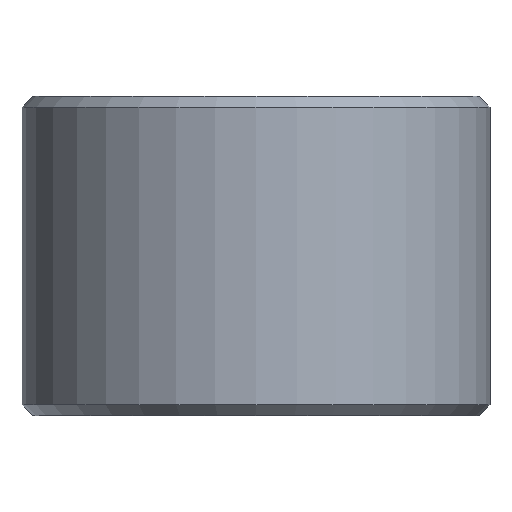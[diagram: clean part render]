
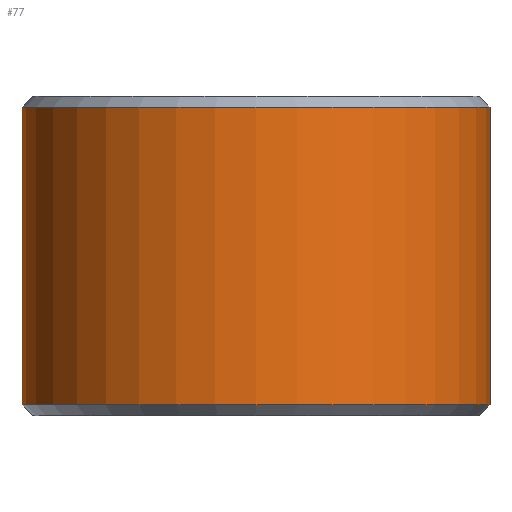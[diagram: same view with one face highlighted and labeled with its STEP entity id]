
A CAD part, front view. The second image highlights one B-rep face of the part: STEP entity #77.
In plain terms, the highlighted cylindrical face has radius 11 mm (diameter 22 mm), a partial arc.
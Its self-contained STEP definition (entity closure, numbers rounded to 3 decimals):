
#3 = CIRCLE ( 'NONE', #161, 11. ) ;
#8 = CARTESIAN_POINT ( 'NONE',  ( -11., 0., 7.5 ) ) ;
#39 = DIRECTION ( 'NONE',  ( 0., 0., 1. ) ) ;
#59 = CARTESIAN_POINT ( 'NONE',  ( 0., 0., 7.5 ) ) ;
#70 = CARTESIAN_POINT ( 'NONE',  ( 11., 0., 7.5 ) ) ;
#77 = ADVANCED_FACE ( 'NONE', ( #440 ), #118, .T. ) ;
#87 = CARTESIAN_POINT ( 'NONE',  ( 11., 0., 7. ) ) ;
#97 = LINE ( 'NONE', #8, #249 ) ;
#118 = CYLINDRICAL_SURFACE ( 'NONE', #143, 11. ) ;
#133 = CARTESIAN_POINT ( 'NONE',  ( -11., 0., -7. ) ) ;
#142 = CARTESIAN_POINT ( 'NONE',  ( -11., 0., 7. ) ) ;
#143 = AXIS2_PLACEMENT_3D ( 'NONE', #59, #264, #328 ) ;
#144 = CIRCLE ( 'NONE', #403, 11. ) ;
#155 = VERTEX_POINT ( 'NONE', #87 ) ;
#159 = DIRECTION ( 'NONE',  ( 1., 0., 0. ) ) ;
#161 = AXIS2_PLACEMENT_3D ( 'NONE', #235, #39, #159 ) ;
#194 = EDGE_CURVE ( 'NONE', #392, #206, #3, .T. ) ;
#195 = DIRECTION ( 'NONE',  ( 0., 0., -1. ) ) ;
#197 = VECTOR ( 'NONE', #322, 1000. ) ;
#206 = VERTEX_POINT ( 'NONE', #269 ) ;
#212 = ORIENTED_EDGE ( 'NONE', *, *, #333, .F. ) ;
#233 = EDGE_CURVE ( 'NONE', #442, #392, #97, .T. ) ;
#235 = CARTESIAN_POINT ( 'NONE',  ( 0., 0., -7. ) ) ;
#249 = VECTOR ( 'NONE', #346, 1000. ) ;
#264 = DIRECTION ( 'NONE',  ( 0., 0., -1. ) ) ;
#269 = CARTESIAN_POINT ( 'NONE',  ( 11., 0., -7. ) ) ;
#298 = ORIENTED_EDGE ( 'NONE', *, *, #305, .T. ) ;
#305 = EDGE_CURVE ( 'NONE', #155, #442, #144, .T. ) ;
#322 = DIRECTION ( 'NONE',  ( 0., 0., -1. ) ) ;
#328 = DIRECTION ( 'NONE',  ( -1., 0., 0. ) ) ;
#333 = EDGE_CURVE ( 'NONE', #155, #206, #382, .T. ) ;
#338 = DIRECTION ( 'NONE',  ( 1., 0., 0. ) ) ;
#346 = DIRECTION ( 'NONE',  ( 0., 0., -1. ) ) ;
#353 = EDGE_LOOP ( 'NONE', ( #212, #298, #383, #436 ) ) ;
#382 = LINE ( 'NONE', #70, #197 ) ;
#383 = ORIENTED_EDGE ( 'NONE', *, *, #233, .T. ) ;
#392 = VERTEX_POINT ( 'NONE', #133 ) ;
#403 = AXIS2_PLACEMENT_3D ( 'NONE', #415, #195, #338 ) ;
#415 = CARTESIAN_POINT ( 'NONE',  ( 0., 0., 7. ) ) ;
#436 = ORIENTED_EDGE ( 'NONE', *, *, #194, .T. ) ;
#440 = FACE_OUTER_BOUND ( 'NONE', #353, .T. ) ;
#442 = VERTEX_POINT ( 'NONE', #142 ) ;
